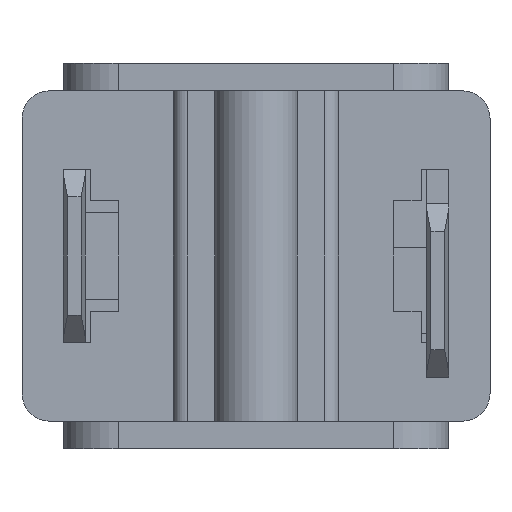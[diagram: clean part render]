
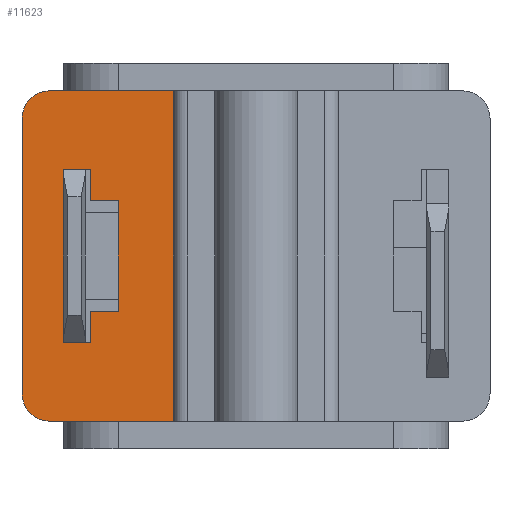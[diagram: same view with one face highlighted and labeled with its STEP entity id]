
A CAD part, front view. The second image highlights one B-rep face of the part: STEP entity #11623.
In plain terms, the highlighted planar face has unit normal (0, -1, 0).
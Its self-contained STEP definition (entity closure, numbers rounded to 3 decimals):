
#23=DIRECTION('',(1.,0.,0.));
#24=VECTOR('',#23,4.5);
#25=CARTESIAN_POINT('',(-7.5,-9.,0.));
#26=LINE('',#25,#24);
#138=DIRECTION('',(1.,0.,0.));
#139=VECTOR('',#138,4.5);
#140=CARTESIAN_POINT('',(-7.5,-9.,12.));
#141=LINE('',#140,#139);
#219=CARTESIAN_POINT('',(-7.5,-9.,11.));
#220=DIRECTION('',(0.,-1.,0.));
#221=DIRECTION('',(0.,0.,1.));
#222=AXIS2_PLACEMENT_3D('',#219,#220,#221);
#232=CARTESIAN_POINT('',(-7.5,-9.,1.));
#233=DIRECTION('',(0.,-1.,0.));
#234=DIRECTION('',(-1.,0.,0.));
#235=AXIS2_PLACEMENT_3D('',#232,#233,#234);
#3817=DIRECTION('',(0.,0.,1.));
#3818=VECTOR('',#3817,10.);
#3819=CARTESIAN_POINT('',(-8.5,-9.,1.));
#3820=LINE('',#3819,#3818);
#3821=DIRECTION('',(-1.,0.,0.));
#3822=VECTOR('',#3821,0.2);
#3823=CARTESIAN_POINT('',(-6.,-9.,2.85));
#3824=LINE('',#3823,#3822);
#3825=DIRECTION('',(0.,0.,-1.));
#3826=VECTOR('',#3825,1.15);
#3827=CARTESIAN_POINT('',(-6.,-9.,4.));
#3828=LINE('',#3827,#3826);
#3829=DIRECTION('',(-1.,0.,0.));
#3830=VECTOR('',#3829,1.);
#3831=CARTESIAN_POINT('',(-5.,-9.,4.));
#3832=LINE('',#3831,#3830);
#3833=DIRECTION('',(0.,0.,-1.));
#3834=VECTOR('',#3833,4.);
#3835=CARTESIAN_POINT('',(-5.,-9.,8.));
#3836=LINE('',#3835,#3834);
#3837=DIRECTION('',(1.,0.,0.));
#3838=VECTOR('',#3837,1.);
#3839=CARTESIAN_POINT('',(-6.,-9.,8.));
#3840=LINE('',#3839,#3838);
#3841=DIRECTION('',(0.,0.,-1.));
#3842=VECTOR('',#3841,1.15);
#3843=CARTESIAN_POINT('',(-6.,-9.,9.15));
#3844=LINE('',#3843,#3842);
#3845=DIRECTION('',(1.,0.,0.));
#3846=VECTOR('',#3845,0.2);
#3847=CARTESIAN_POINT('',(-6.2,-9.,9.15));
#3848=LINE('',#3847,#3846);
#3849=DIRECTION('',(1.,0.,0.));
#3850=VECTOR('',#3849,0.8);
#3851=CARTESIAN_POINT('',(-7.,-9.,9.15));
#3852=LINE('',#3851,#3850);
#3853=DIRECTION('',(0.,0.,-1.));
#3854=VECTOR('',#3853,6.3);
#3855=CARTESIAN_POINT('',(-7.,-9.,9.15));
#3856=LINE('',#3855,#3854);
#3857=DIRECTION('',(1.,0.,0.));
#3858=VECTOR('',#3857,0.8);
#3859=CARTESIAN_POINT('',(-7.,-9.,2.85));
#3860=LINE('',#3859,#3858);
#3861=DIRECTION('',(0.,0.,1.));
#3862=VECTOR('',#3861,12.);
#3863=CARTESIAN_POINT('',(-3.,-9.,0.));
#3864=LINE('',#3863,#3862);
#4859=CARTESIAN_POINT('',(-3.,-9.,0.));
#4860=CARTESIAN_POINT('',(-3.,-9.,12.));
#4861=VERTEX_POINT('',#4859);
#4862=VERTEX_POINT('',#4860);
#4899=CARTESIAN_POINT('',(-7.5,-9.,12.));
#4900=CARTESIAN_POINT('',(-8.5,-9.,11.));
#4901=VERTEX_POINT('',#4899);
#4902=VERTEX_POINT('',#4900);
#4903=CARTESIAN_POINT('',(-8.5,-9.,1.));
#4904=CARTESIAN_POINT('',(-7.5,-9.,0.));
#4905=VERTEX_POINT('',#4903);
#4906=VERTEX_POINT('',#4904);
#4929=CARTESIAN_POINT('',(-6.,-9.,9.15));
#4930=CARTESIAN_POINT('',(-6.,-9.,8.));
#4931=VERTEX_POINT('',#4929);
#4932=VERTEX_POINT('',#4930);
#4933=CARTESIAN_POINT('',(-5.,-9.,8.));
#4934=VERTEX_POINT('',#4933);
#4935=CARTESIAN_POINT('',(-5.,-9.,4.));
#4936=VERTEX_POINT('',#4935);
#4937=CARTESIAN_POINT('',(-6.,-9.,4.));
#4938=VERTEX_POINT('',#4937);
#4939=CARTESIAN_POINT('',(-6.,-9.,2.85));
#4940=VERTEX_POINT('',#4939);
#5414=CARTESIAN_POINT('',(-7.,-9.,9.15));
#5415=CARTESIAN_POINT('',(-7.,-9.,2.85));
#5416=VERTEX_POINT('',#5414);
#5417=VERTEX_POINT('',#5415);
#5418=CARTESIAN_POINT('',(-6.2,-9.,9.15));
#5419=VERTEX_POINT('',#5418);
#5420=CARTESIAN_POINT('',(-6.2,-9.,2.85));
#5421=VERTEX_POINT('',#5420);
#11587=CARTESIAN_POINT('',(-8.5,-9.,0.));
#11588=DIRECTION('',(0.,-1.,0.));
#11589=DIRECTION('',(1.,0.,0.));
#11590=AXIS2_PLACEMENT_3D('',#11587,#11588,#11589);
#11591=PLANE('',#11590);
#11592=ORIENTED_EDGE('',*,*,#5902,.F.);
#11593=ORIENTED_EDGE('',*,*,#5769,.T.);
#11595=ORIENTED_EDGE('',*,*,#11594,.F.);
#11596=ORIENTED_EDGE('',*,*,#5619,.F.);
#11597=ORIENTED_EDGE('',*,*,#5931,.F.);
#11598=ORIENTED_EDGE('',*,*,#5917,.T.);
#11599=EDGE_LOOP('',(#11592,#11593,#11595,#11596,#11597,#11598));
#11600=FACE_OUTER_BOUND('',#11599,.F.);
#11602=ORIENTED_EDGE('',*,*,#11601,.F.);
#11604=ORIENTED_EDGE('',*,*,#11603,.F.);
#11606=ORIENTED_EDGE('',*,*,#11605,.F.);
#11608=ORIENTED_EDGE('',*,*,#11607,.F.);
#11610=ORIENTED_EDGE('',*,*,#11609,.F.);
#11612=ORIENTED_EDGE('',*,*,#11611,.F.);
#11614=ORIENTED_EDGE('',*,*,#11613,.F.);
#11616=ORIENTED_EDGE('',*,*,#11615,.F.);
#11618=ORIENTED_EDGE('',*,*,#11617,.T.);
#11620=ORIENTED_EDGE('',*,*,#11619,.T.);
#11621=EDGE_LOOP('',(#11602,#11604,#11606,#11608,#11610,#11612,#11614,#11616,
#11618,#11620));
#11622=FACE_BOUND('',#11621,.F.);
#11623=ADVANCED_FACE('',(#11600,#11622),#11591,.T.);
#223=CIRCLE('',#222,1.);
#236=CIRCLE('',#235,1.);
#5619=EDGE_CURVE('',#4906,#4861,#26,.T.);
#5769=EDGE_CURVE('',#4901,#4862,#141,.T.);
#5902=EDGE_CURVE('',#4901,#4902,#223,.T.);
#5917=EDGE_CURVE('',#4905,#4902,#3820,.T.);
#5931=EDGE_CURVE('',#4905,#4906,#236,.T.);
#11594=EDGE_CURVE('',#4861,#4862,#3864,.T.);
#11601=EDGE_CURVE('',#4940,#5421,#3824,.T.);
#11603=EDGE_CURVE('',#4938,#4940,#3828,.T.);
#11605=EDGE_CURVE('',#4936,#4938,#3832,.T.);
#11607=EDGE_CURVE('',#4934,#4936,#3836,.T.);
#11609=EDGE_CURVE('',#4932,#4934,#3840,.T.);
#11611=EDGE_CURVE('',#4931,#4932,#3844,.T.);
#11613=EDGE_CURVE('',#5419,#4931,#3848,.T.);
#11615=EDGE_CURVE('',#5416,#5419,#3852,.T.);
#11617=EDGE_CURVE('',#5416,#5417,#3856,.T.);
#11619=EDGE_CURVE('',#5417,#5421,#3860,.T.);
